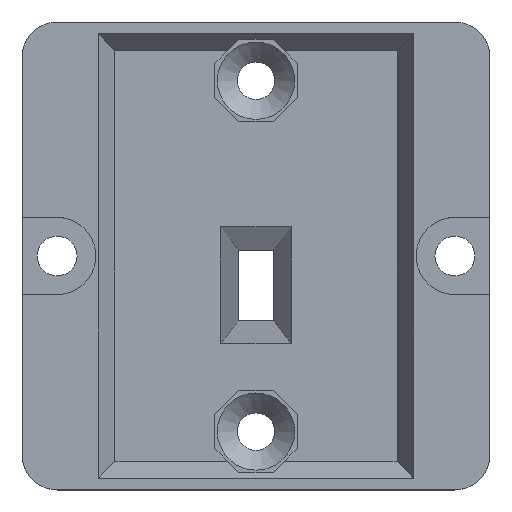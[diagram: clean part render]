
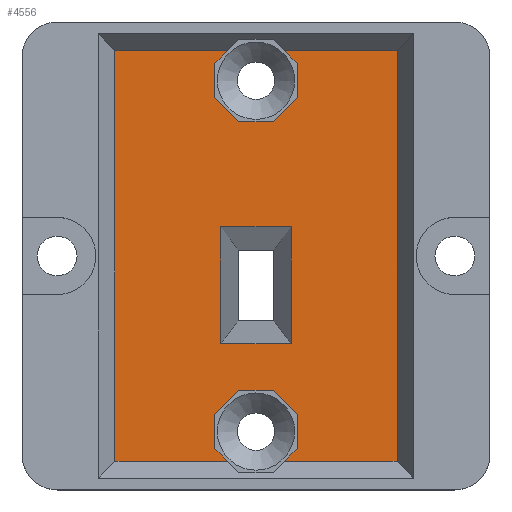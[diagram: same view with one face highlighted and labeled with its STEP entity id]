
A CAD part, top view. The second image highlights one B-rep face of the part: STEP entity #4556.
In plain terms, the highlighted planar face has unit normal (0, 0, 1).
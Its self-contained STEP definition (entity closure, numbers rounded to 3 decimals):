
#215=CARTESIAN_POINT('',(3.0,-7.5,5.));
#216=VERTEX_POINT('',#215);
#223=CARTESIAN_POINT('',(3.0,2.5,5.));
#224=VERTEX_POINT('',#223);
#225=CARTESIAN_POINT('',(3.,2.5,5.0));
#226=DIRECTION('',(0.0,-1.0,0.0));
#227=VECTOR('',#226,10.);
#228=LINE('',#225,#227);
#229=EDGE_CURVE('',#224,#216,#228,.T.);
#246=CARTESIAN_POINT('',(-3.0,-7.5,5.));
#247=VERTEX_POINT('',#246);
#255=CARTESIAN_POINT('',(-3.0,2.5,5.));
#256=VERTEX_POINT('',#255);
#263=CARTESIAN_POINT('',(-3.,-7.5,5.0));
#264=DIRECTION('',(0.0,1.0,0.0));
#265=VECTOR('',#264,10.);
#266=LINE('',#263,#265);
#267=EDGE_CURVE('',#247,#256,#266,.T.);
#277=CARTESIAN_POINT('',(-3.0,2.5,5.0));
#278=DIRECTION('',(1.0,0.0,0.0));
#279=VECTOR('',#278,6.);
#280=LINE('',#277,#279);
#281=EDGE_CURVE('',#256,#224,#280,.T.);
#374=CARTESIAN_POINT('',(3.0,-7.5,5.));
#375=DIRECTION('',(-1.0,0.0,0.0));
#376=VECTOR('',#375,6.);
#377=LINE('',#374,#376);
#378=EDGE_CURVE('',#216,#247,#377,.T.);
#3820=CARTESIAN_POINT('',(1.46,-11.475,5.0));
#3821=VERTEX_POINT('',#3820);
#3822=CARTESIAN_POINT('',(3.525,-13.54,5.0));
#3823=VERTEX_POINT('',#3822);
#3824=CARTESIAN_POINT('',(1.46,-11.475,5.0));
#3825=DIRECTION('',(0.707,-0.707,0.0));
#3826=VECTOR('',#3825,2.92);
#3827=LINE('',#3824,#3826);
#3828=EDGE_CURVE('',#3821,#3823,#3827,.T.);
#3860=CARTESIAN_POINT('',(3.525,-16.46,5.0));
#3861=VERTEX_POINT('',#3860);
#3862=CARTESIAN_POINT('',(3.525,-13.54,5.0));
#3863=DIRECTION('',(0.0,-1.0,0.0));
#3864=VECTOR('',#3863,2.92);
#3865=LINE('',#3862,#3864);
#3866=EDGE_CURVE('',#3823,#3861,#3865,.T.);
#3891=CARTESIAN_POINT('',(2.428,-17.557,5.0));
#3892=VERTEX_POINT('',#3891);
#3893=CARTESIAN_POINT('',(3.525,-16.46,5.0));
#3894=DIRECTION('',(-0.707,-0.707,0.0));
#3895=VECTOR('',#3894,1.551);
#3896=LINE('',#3893,#3895);
#3897=EDGE_CURVE('',#3861,#3892,#3896,.T.);
#3961=CARTESIAN_POINT('',(-1.46,-11.475,5.0));
#3962=VERTEX_POINT('',#3961);
#3963=CARTESIAN_POINT('',(-1.46,-11.475,5.0));
#3964=DIRECTION('',(1.0,0.0,0.0));
#3965=VECTOR('',#3964,2.92);
#3966=LINE('',#3963,#3965);
#3967=EDGE_CURVE('',#3962,#3821,#3966,.T.);
#3992=CARTESIAN_POINT('',(-3.525,-13.54,5.0));
#3993=VERTEX_POINT('',#3992);
#3994=CARTESIAN_POINT('',(-3.525,-13.54,5.0));
#3995=DIRECTION('',(0.707,0.707,0.0));
#3996=VECTOR('',#3995,2.92);
#3997=LINE('',#3994,#3996);
#3998=EDGE_CURVE('',#3993,#3962,#3997,.T.);
#4023=CARTESIAN_POINT('',(-3.525,-16.46,5.0));
#4024=VERTEX_POINT('',#4023);
#4025=CARTESIAN_POINT('',(-3.525,-16.46,5.0));
#4026=DIRECTION('',(0.0,1.0,0.0));
#4027=VECTOR('',#4026,2.92);
#4028=LINE('',#4025,#4027);
#4029=EDGE_CURVE('',#4024,#3993,#4028,.T.);
#4054=CARTESIAN_POINT('',(-2.428,-17.557,5.0));
#4055=VERTEX_POINT('',#4054);
#4056=CARTESIAN_POINT('',(-2.428,-17.557,5.0));
#4057=DIRECTION('',(-0.707,0.707,0.0));
#4058=VECTOR('',#4057,1.551);
#4059=LINE('',#4056,#4058);
#4060=EDGE_CURVE('',#4055,#4024,#4059,.T.);
#4103=CARTESIAN_POINT('',(-1.46,11.475,5.0));
#4104=VERTEX_POINT('',#4103);
#4105=CARTESIAN_POINT('',(-3.525,13.54,5.0));
#4106=VERTEX_POINT('',#4105);
#4107=CARTESIAN_POINT('',(-1.46,11.475,5.0));
#4108=DIRECTION('',(-0.707,0.707,0.0));
#4109=VECTOR('',#4108,2.92);
#4110=LINE('',#4107,#4109);
#4111=EDGE_CURVE('',#4104,#4106,#4110,.T.);
#4143=CARTESIAN_POINT('',(-3.525,16.46,5.0));
#4144=VERTEX_POINT('',#4143);
#4145=CARTESIAN_POINT('',(-3.525,13.54,5.0));
#4146=DIRECTION('',(0.0,1.0,0.0));
#4147=VECTOR('',#4146,2.92);
#4148=LINE('',#4145,#4147);
#4149=EDGE_CURVE('',#4106,#4144,#4148,.T.);
#4174=CARTESIAN_POINT('',(-2.428,17.557,5.0));
#4175=VERTEX_POINT('',#4174);
#4176=CARTESIAN_POINT('',(-3.525,16.46,5.0));
#4177=DIRECTION('',(0.707,0.707,0.0));
#4178=VECTOR('',#4177,1.551);
#4179=LINE('',#4176,#4178);
#4180=EDGE_CURVE('',#4144,#4175,#4179,.T.);
#4244=CARTESIAN_POINT('',(3.525,16.46,5.0));
#4245=VERTEX_POINT('',#4244);
#4246=CARTESIAN_POINT('',(3.525,13.54,5.0));
#4247=VERTEX_POINT('',#4246);
#4248=CARTESIAN_POINT('',(3.525,16.46,5.0));
#4249=DIRECTION('',(0.0,-1.0,0.0));
#4250=VECTOR('',#4249,2.92);
#4251=LINE('',#4248,#4250);
#4252=EDGE_CURVE('',#4245,#4247,#4251,.T.);
#4284=CARTESIAN_POINT('',(2.428,17.557,5.0));
#4285=VERTEX_POINT('',#4284);
#4286=CARTESIAN_POINT('',(2.428,17.557,5.0));
#4287=DIRECTION('',(0.707,-0.707,0.0));
#4288=VECTOR('',#4287,1.551);
#4289=LINE('',#4286,#4288);
#4290=EDGE_CURVE('',#4285,#4245,#4289,.T.);
#4314=CARTESIAN_POINT('',(1.46,11.475,5.0));
#4315=VERTEX_POINT('',#4314);
#4316=CARTESIAN_POINT('',(1.46,11.475,5.0));
#4317=DIRECTION('',(-1.0,0.0,0.0));
#4318=VECTOR('',#4317,2.92);
#4319=LINE('',#4316,#4318);
#4320=EDGE_CURVE('',#4315,#4104,#4319,.T.);
#4345=CARTESIAN_POINT('',(3.525,13.54,5.0));
#4346=DIRECTION('',(-0.707,-0.707,0.0));
#4347=VECTOR('',#4346,2.92);
#4348=LINE('',#4345,#4347);
#4349=EDGE_CURVE('',#4247,#4315,#4348,.T.);
#4389=CARTESIAN_POINT('',(-12.057,-17.557,5.0));
#4390=VERTEX_POINT('',#4389);
#4391=CARTESIAN_POINT('',(-12.057,-17.557,5.0));
#4392=DIRECTION('',(1.0,0.0,0.0));
#4393=VECTOR('',#4392,9.628);
#4394=LINE('',#4391,#4393);
#4395=EDGE_CURVE('',#4390,#4055,#4394,.T.);
#4413=CARTESIAN_POINT('',(12.057,-17.557,5.0));
#4414=VERTEX_POINT('',#4413);
#4421=CARTESIAN_POINT('',(2.428,-17.557,5.0));
#4422=DIRECTION('',(1.0,0.0,0.0));
#4423=VECTOR('',#4422,9.628);
#4424=LINE('',#4421,#4423);
#4425=EDGE_CURVE('',#3892,#4414,#4424,.T.);
#4438=CARTESIAN_POINT('',(12.057,17.557,5.0));
#4439=VERTEX_POINT('',#4438);
#4440=CARTESIAN_POINT('',(12.057,17.557,5.0));
#4441=DIRECTION('',(-1.0,0.0,0.0));
#4442=VECTOR('',#4441,9.628);
#4443=LINE('',#4440,#4442);
#4444=EDGE_CURVE('',#4439,#4285,#4443,.T.);
#4462=CARTESIAN_POINT('',(-12.057,17.557,5.0));
#4463=VERTEX_POINT('',#4462);
#4470=CARTESIAN_POINT('',(-2.428,17.557,5.0));
#4471=DIRECTION('',(-1.0,0.0,0.0));
#4472=VECTOR('',#4471,9.628);
#4473=LINE('',#4470,#4472);
#4474=EDGE_CURVE('',#4175,#4463,#4473,.T.);
#4484=CARTESIAN_POINT('',(-12.057,17.557,5.0));
#4485=DIRECTION('',(0.0,-1.0,0.0));
#4486=VECTOR('',#4485,35.113);
#4487=LINE('',#4484,#4486);
#4488=EDGE_CURVE('',#4463,#4390,#4487,.T.);
#4506=CARTESIAN_POINT('',(12.057,-17.557,5.0));
#4507=DIRECTION('',(0.0,1.0,0.0));
#4508=VECTOR('',#4507,35.113);
#4509=LINE('',#4506,#4508);
#4510=EDGE_CURVE('',#4414,#4439,#4509,.T.);
#4523=CARTESIAN_POINT('',(0.0,0.,5.0));
#4524=DIRECTION('',(0.0,0.0,1.0));
#4525=DIRECTION('',(1.0,0.0,0.0));
#4526=AXIS2_PLACEMENT_3D('',#4523,#4524,#4525);
#4527=PLANE('',#4526);
#4528=ORIENTED_EDGE('',*,*,#3897,.T.);
#4529=ORIENTED_EDGE('',*,*,#4425,.T.);
#4530=ORIENTED_EDGE('',*,*,#4510,.T.);
#4531=ORIENTED_EDGE('',*,*,#4444,.T.);
#4532=ORIENTED_EDGE('',*,*,#4290,.T.);
#4533=ORIENTED_EDGE('',*,*,#4252,.T.);
#4534=ORIENTED_EDGE('',*,*,#4349,.T.);
#4535=ORIENTED_EDGE('',*,*,#4320,.T.);
#4536=ORIENTED_EDGE('',*,*,#4111,.T.);
#4537=ORIENTED_EDGE('',*,*,#4149,.T.);
#4538=ORIENTED_EDGE('',*,*,#4180,.T.);
#4539=ORIENTED_EDGE('',*,*,#4474,.T.);
#4540=ORIENTED_EDGE('',*,*,#4488,.T.);
#4541=ORIENTED_EDGE('',*,*,#4395,.T.);
#4542=ORIENTED_EDGE('',*,*,#4060,.T.);
#4543=ORIENTED_EDGE('',*,*,#4029,.T.);
#4544=ORIENTED_EDGE('',*,*,#3998,.T.);
#4545=ORIENTED_EDGE('',*,*,#3967,.T.);
#4546=ORIENTED_EDGE('',*,*,#3828,.T.);
#4547=ORIENTED_EDGE('',*,*,#3866,.T.);
#4548=EDGE_LOOP('',(#4528,#4529,#4530,#4531,#4532,#4533,#4534,#4535,#4536,#4537,#4538,#4539,#4540,#4541,#4542,#4543,#4544,#4545,#4546,#4547));
#4549=FACE_OUTER_BOUND('',#4548,.T.);
#4550=ORIENTED_EDGE('',*,*,#378,.T.);
#4551=ORIENTED_EDGE('',*,*,#267,.T.);
#4552=ORIENTED_EDGE('',*,*,#281,.T.);
#4553=ORIENTED_EDGE('',*,*,#229,.T.);
#4554=EDGE_LOOP('',(#4550,#4551,#4552,#4553));
#4555=FACE_BOUND('',#4554,.T.);
#4556=ADVANCED_FACE('',(#4549,#4555),#4527,.T.);
